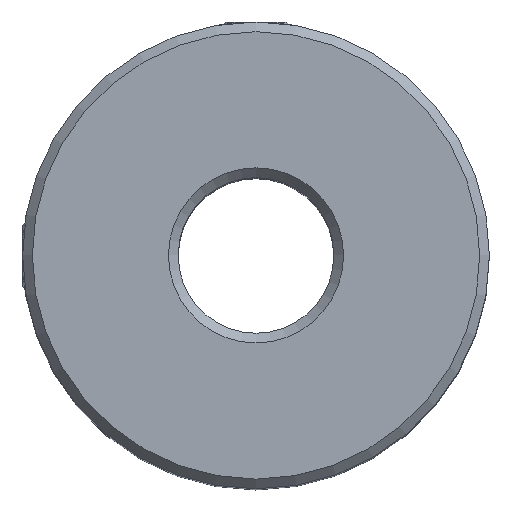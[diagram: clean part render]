
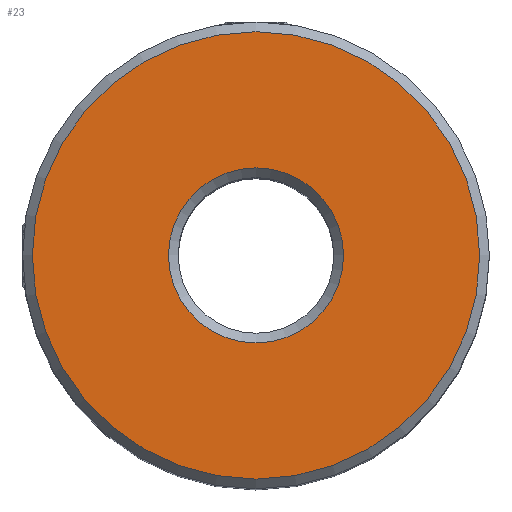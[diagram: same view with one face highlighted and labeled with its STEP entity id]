
A CAD part, top view. The second image highlights one B-rep face of the part: STEP entity #23.
In plain terms, the highlighted planar face has unit normal (0, 0, 1).
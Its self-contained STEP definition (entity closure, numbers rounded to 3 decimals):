
#23 = ADVANCED_FACE ( 'NONE', ( #4391, #5580 ), #4429, .T. ) ;
#340 = AXIS2_PLACEMENT_3D ( 'NONE', #1389, #3132, #6601 ) ;
#498 = CARTESIAN_POINT ( 'NONE',  ( 0., 0., 17.5 ) ) ;
#1018 = CIRCLE ( 'NONE', #3911, 4.5 ) ;
#1274 = DIRECTION ( 'NONE',  ( 0., 0., -1. ) ) ;
#1389 = CARTESIAN_POINT ( 'NONE',  ( 0., 0., 17.5 ) ) ;
#1455 = CARTESIAN_POINT ( 'NONE',  ( 11.5, 0., 17.5 ) ) ;
#1684 = DIRECTION ( 'NONE',  ( 1., 0., 0. ) ) ;
#1908 = CARTESIAN_POINT ( 'NONE',  ( 4.5, 0., 17.5 ) ) ;
#2694 = AXIS2_PLACEMENT_3D ( 'NONE', #498, #5046, #1684 ) ;
#3132 = DIRECTION ( 'NONE',  ( 0., 0., 1. ) ) ;
#3564 = CARTESIAN_POINT ( 'NONE',  ( 0., 0., 17.5 ) ) ;
#3666 = VERTEX_POINT ( 'NONE', #1455 ) ;
#3858 = EDGE_LOOP ( 'NONE', ( #4563 ) ) ;
#3911 = AXIS2_PLACEMENT_3D ( 'NONE', #3564, #1274, #4739 ) ;
#4150 = CIRCLE ( 'NONE', #2694, 11.5 ) ;
#4166 = VERTEX_POINT ( 'NONE', #1908 ) ;
#4168 = ORIENTED_EDGE ( 'NONE', *, *, #4359, .T. ) ;
#4179 = EDGE_LOOP ( 'NONE', ( #4168 ) ) ;
#4359 = EDGE_CURVE ( 'NONE', #4166, #4166, #1018, .T. ) ;
#4391 = FACE_BOUND ( 'NONE', #4179, .T. ) ;
#4429 = PLANE ( 'NONE',  #340 ) ;
#4563 = ORIENTED_EDGE ( 'NONE', *, *, #5122, .T. ) ;
#4739 = DIRECTION ( 'NONE',  ( 1., 0., 0. ) ) ;
#5046 = DIRECTION ( 'NONE',  ( 0., 0., 1. ) ) ;
#5122 = EDGE_CURVE ( 'NONE', #3666, #3666, #4150, .T. ) ;
#5580 = FACE_OUTER_BOUND ( 'NONE', #3858, .T. ) ;
#6601 = DIRECTION ( 'NONE',  ( 1., 0., 0. ) ) ;
